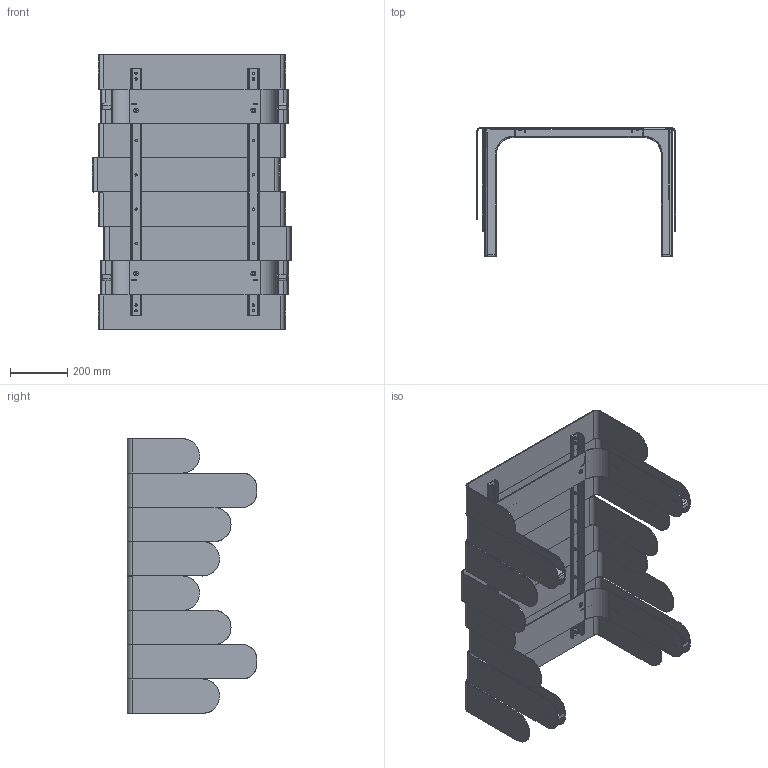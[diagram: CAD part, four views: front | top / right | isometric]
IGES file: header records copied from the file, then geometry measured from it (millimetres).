
Start section: SolidWorks IGES file using analytic representation for surfaces
Global section: file name: C:\VaultDeCastelli\Progetti\DC\PESO LEGGERO PRODOTTI\Ale\DeCastelli-3D-Xilo Table.igs; native system: SolidWorks 2022; preprocessor: SolidWorks 2022; author: AlessandroP; date: 240719.130140; units: millimetre
Bounding box: 696 x 453 x 960 mm (x, y, z)
Surface area: 3574676.5 mm2 (no closed solid volume)
Topology: 0 solids, 0 shells, 544 faces, 7867 edges, 7827 vertices
Faces by surface type: bspline 355, revolution 189
